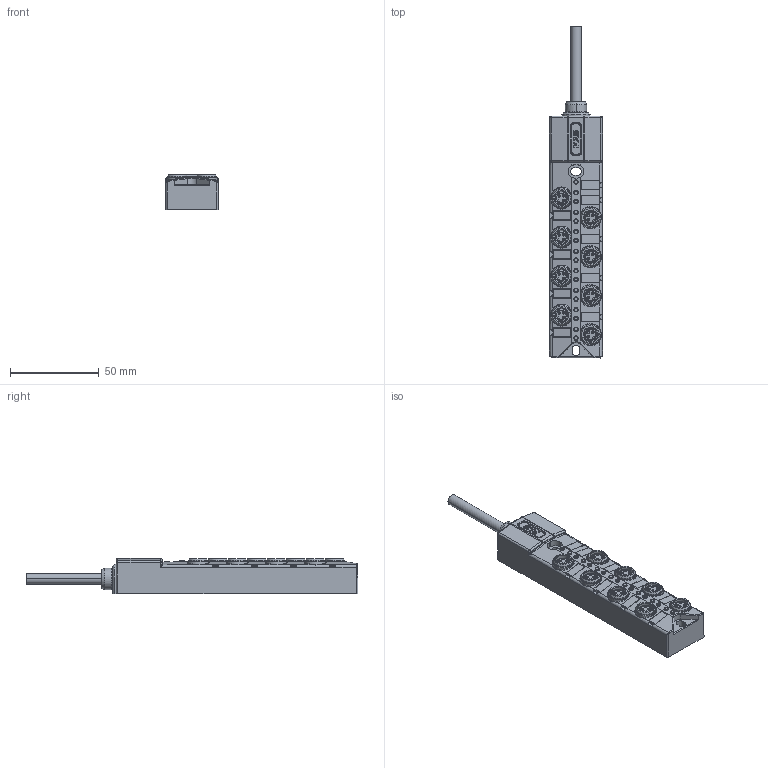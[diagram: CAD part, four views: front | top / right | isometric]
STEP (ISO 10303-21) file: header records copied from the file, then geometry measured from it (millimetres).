
FILE_DESCRIPTION (( 'STEP AP203' ), '1' );
FILE_NAME ('23P801(23P821¡¢23P841¡¢23P861¡¢23N801¡¢23N821¡¢23N841¡¢23N861).STEP', '2019-09-26T05:36:00', ( '' ), ( '' ), 'SwSTEP 2.0', 'SolidWorks 2016', '' );
FILE_SCHEMA (( 'CONFIG_CONTROL_DESIGN' ));
Products named in the file (1): 23P801(23P821﹜23P841﹜23P861﹜23N801﹜23N821﹜23N841﹜23N861)
Bounding box: 29.94 x 187.22 x 19.75 mm (x, y, z)
Volume: 71000.9 mm3; surface area: 22148.2 mm2
Topology: 1 solids, 1 shells, 2432 faces, 6560 edges, 4273 vertices
Faces by surface type: plane 849, cone 595, cylinder 550, bspline 438
Entity records: 113098 total; most frequent: CARTESIAN_POINT 56247, ORIENTED_EDGE 13112, DIRECTION 10205, EDGE_CURVE 6556, VERTEX_POINT 4273, AXIS2_PLACEMENT_3D 3646, VECTOR 2913, LINE 2913
